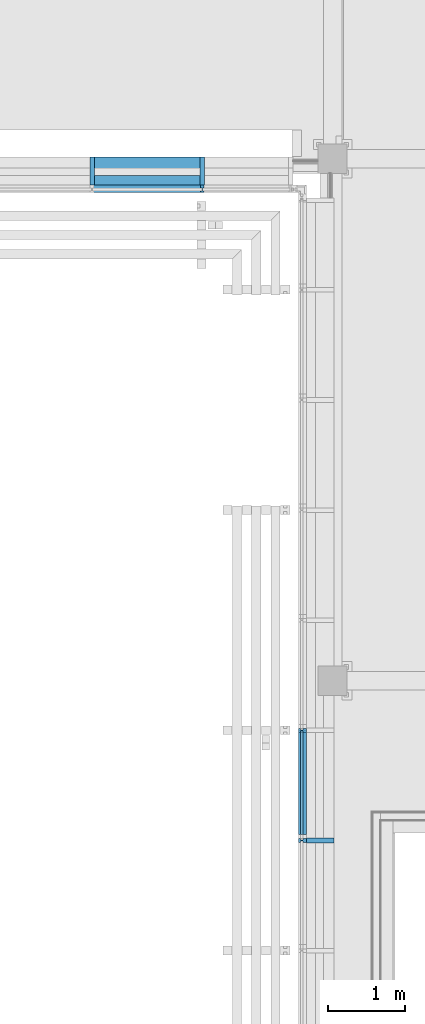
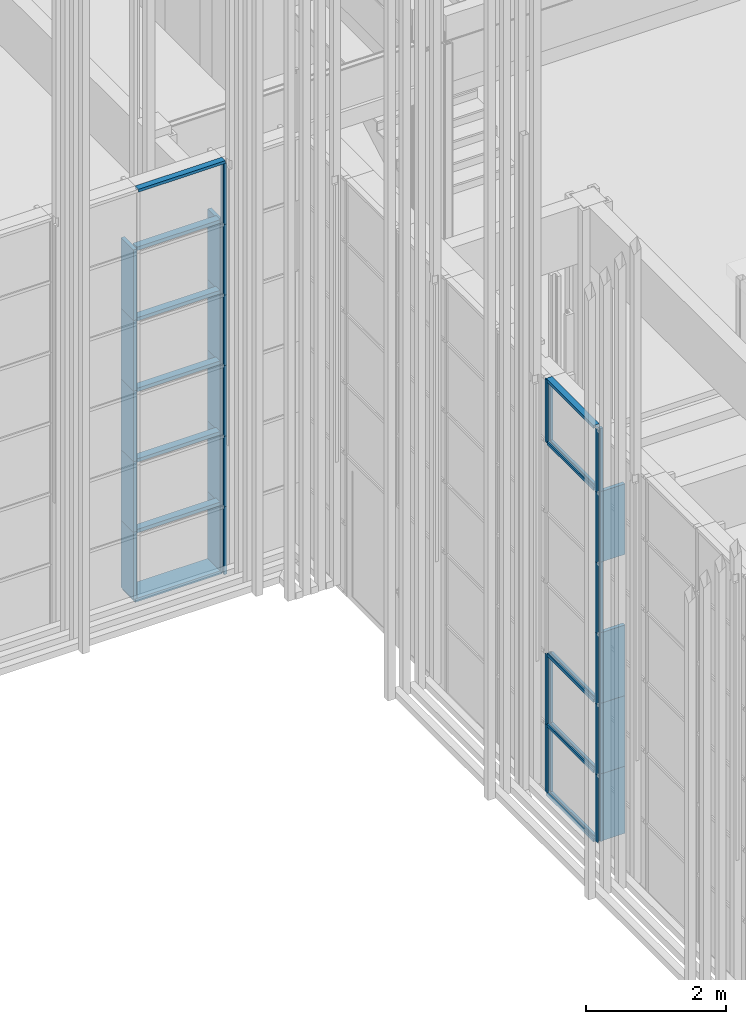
# One storey, part 18 of 260: 41 members, 3 elements without a shape of their own.
"""IFC2X3 building model written with IfcOpenShell, lengths in millimetres."""

from ifc_helpers import new_model, entity, si_unit, converted_unit, derived_unit, money_unit, direction, frame, origin_with_axes, place, context, subcontext, project, spatial, faceted_brep, source, transform, mapped, material, type_object, element, aggregate, save


model = new_model("IFC2X3")

# Units and contexts
model_context = context("Model", 3, precision=0.01, world=origin_with_axes(), true_north=direction((0.0, 1.0)))
body_context = subcontext(model_context, "Body", "Model", "MODEL_VIEW")
ifc_project = project(units=[si_unit("LENGTHUNIT", "METRE", prefix="MILLI"), si_unit("AREAUNIT", "SQUARE_METRE"), si_unit("VOLUMEUNIT", "CUBIC_METRE"), converted_unit("PLANEANGLEUNIT", "DEGREE", entity("IfcPlaneAngleMeasure", 0.0174532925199), si_unit("PLANEANGLEUNIT", "RADIAN"), dimensions=[0, 0, 0, 0, 0, 0, 0]), money_unit("EUR"), converted_unit("TIMEUNIT", "Year", entity("IfcTimeMeasure", 31556926.0), si_unit("TIMEUNIT", "SECOND"), dimensions=[0, 0, 1, 0, 0, 0, 0]), si_unit("MASSUNIT", "GRAM", prefix="KILO"), si_unit("THERMODYNAMICTEMPERATUREUNIT", "DEGREE_CELSIUS"), si_unit("LUMINOUSINTENSITYUNIT", "LUMEN"), si_unit("ENERGYUNIT", "JOULE", prefix="MEGA"), derived_unit("THERMALCONDUCTANCEUNIT", [(si_unit("POWERUNIT", "WATT"), 1), (si_unit("LENGTHUNIT", "METRE"), -1), (si_unit("THERMODYNAMICTEMPERATUREUNIT", "KELVIN"), -1)]), derived_unit("SPECIFICHEATCAPACITYUNIT", [(si_unit("ENERGYUNIT", "JOULE"), 1), (si_unit("MASSUNIT", "GRAM", prefix="KILO"), -1), (si_unit("THERMODYNAMICTEMPERATUREUNIT", "KELVIN"), -1)]), derived_unit("MASSDENSITYUNIT", [(si_unit("MASSUNIT", "GRAM", prefix="KILO"), 1), (si_unit("VOLUMEUNIT", "CUBIC_METRE"), -1)])], contexts=[model_context])

# Site, building, storey
site_placement = place(None, origin_with_axes())
site = spatial("IfcSite", under=ifc_project, at=site_placement, Name="Kolde pst 67a", CompositionType="ELEMENT")
building_placement = place(site_placement, origin_with_axes())
building = spatial("IfcBuilding", under=site, at=building_placement, Name="Riigigümnaasium", CompositionType="ELEMENT")
storey_placement = place(building_placement, origin_with_axes())
storey = spatial("IfcBuildingStorey", under=building, at=storey_placement, Name="1. korrus", CompositionType="ELEMENT", Elevation=0.0)

# Curtain wall, members
curtain_wall_type = type_object("IfcCurtainWallType", Name="Curtain Wall Type", PredefinedType="NOTDEFINED")
curtain_wall_1_placement = place(storey_placement, frame((47829.9854655, 8727.77020058, -0.000749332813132), z_axis=(0.0, 0.0, 1.0), x_axis=(1.0, 0.0, 0.0)))
curtain_wall_1 = element("IfcCurtainWall", 1, at=curtain_wall_1_placement, inside=storey, type_object=curtain_wall_type, Name="KLAASFASSAAD")
ifc_material_1 = material(Name="_METALL - alumiinium")
member_type_1 = type_object("IfcMemberType", Name="Mullion Frame 50 x 100", PredefinedType="MEMBER")
shared_shape_1 = source(origin_with_axes(), body_context, "Body", "Brep", [
    faceted_brep([(5.0, -16.5, 1230.00046362), (5.0, 16.5, 1230.00046362), (25.0, 16.5, 1230.00046362), (25.0, 40.0, 1230.00046362), (-25.0, 40.0, 1230.00046362), (-25.0, 16.5, 1230.00046362), (-5.0, 16.5, 1230.00046362), (-5.0, -16.5, 1230.00046362), (-25.0, -16.5, 1230.00046362), (-25.0, -60.0, 1230.00046362), (25.0, -60.0, 1230.00046362), (25.0, -16.5, 1230.00046362), (5.0, -16.5, 50.0), (5.0, 16.5, 50.0), (25.0, 16.5, 50.0), (25.0, 40.0, 50.0), (-25.0, 40.0, 50.0), (-25.0, 16.5, 50.0), (-5.0, 16.5, 50.0), (-5.0, -16.5, 50.0), (-25.0, -16.5, 50.0), (-25.0, -60.0, 50.0), (25.0, -60.0, 50.0), (25.0, -16.5, 50.0)], [[[0, 1, 2, 3, 4, 5, 6, 7, 8, 9, 10, 11]], [[0, 12, 13, 1]], [[1, 13, 14, 2]], [[14, 15, 3, 2]], [[4, 3, 15, 16]], [[17, 5, 4, 16]], [[5, 17, 18, 6]], [[7, 6, 18, 19]], [[8, 7, 19, 20]], [[8, 20, 21, 9]], [[10, 9, 21, 22]], [[11, 10, 22, 23]], [[11, 23, 12, 0]], [[13, 12, 23, 22, 21, 20, 19, 18, 17, 16, 15, 14]]]),
])
member_1_placement = place(curtain_wall_1_placement, frame((-1292.41506424, 15102.2446923, 0.000285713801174), z_axis=(0.0, 0.0, 1.0), x_axis=(0.999999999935, -1.14108152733e-05, 0.0)))
member_1 = element("IfcMember", 2, at=member_1_placement, type_object=member_type_1, material=ifc_material_1, Name="RF RAAM VERT-053", ObjectType="MEMBER", context=body_context, shape_type="MappedRepresentation", body=[
    mapped(shared_shape_1, transform((0.0, 0.0, 0.0), x_axis=(-1.0, 0.0, 0.0), y_axis=(0.0, -1.0, 0.0), z_axis=(0.0, 0.0, 1.0))),
])
member_2_placement = place(curtain_wall_1_placement, frame((-6.06114980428e-06, 6648.7910799, 0.0), z_axis=(0.0, 7.65931386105e-09, 1.0), x_axis=(9.1161639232e-10, -1.0, 7.65931386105e-09)))
member_2 = element("IfcMember", 3, at=member_2_placement, type_object=member_type_1, material=ifc_material_1, Name="RF RAAM VERT-969", ObjectType="MEMBER", context=body_context, shape_type="MappedRepresentation", body=[
    mapped(shared_shape_1, transform((0.0, 0.0, 0.0), x_axis=(-1.0, 0.0, 7.65931386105e-09), y_axis=(0.0, -1.0, 0.0), z_axis=(7.65931386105e-09, 0.0, 1.0))),
])
member_3_placement = place(curtain_wall_1_placement, frame((-7.36476835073e-06, 8078.79947583, 0.0), z_axis=(0.0, 0.0, 1.0), x_axis=(9.1161639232e-10, -1.0, 0.0)))
member_3 = element("IfcMember", 4, at=member_3_placement, type_object=member_type_1, material=ifc_material_1, Name="RF RAAM VERT-525", ObjectType="MEMBER", context=body_context, shape_type="MappedRepresentation", body=[
    mapped(shared_shape_1, transform((0.0, 0.0, 0.0), x_axis=(-1.0, 0.0, 0.0), y_axis=(0.0, -1.0, 0.0), z_axis=(0.0, 0.0, 1.0))),
])
shared_shape_2 = source(origin_with_axes(), body_context, "Body", "Brep", [
    faceted_brep([(5.0, -16.5, 1230.0), (5.0, 16.5, 1230.0), (25.0, 16.5, 1230.0), (25.0, 40.0, 1230.0), (-25.0, 40.0, 1230.0), (-25.0, 16.5, 1230.0), (-5.0, 16.5, 1230.0), (-5.0, -16.5, 1230.0), (-25.0, -16.5, 1230.0), (-25.0, -60.0, 1230.0), (25.0, -60.0, 1230.0), (25.0, -16.5, 1230.0), (5.0, -16.5, 0.0), (5.0, 16.5, 0.0), (25.0, 16.5, 0.0), (25.0, 40.0, 0.0), (-25.0, 40.0, 0.0), (-25.0, 16.5, 0.0), (-5.0, 16.5, 0.0), (-5.0, -16.5, 0.0), (-25.0, -16.5, 0.0), (-25.0, -60.0, 0.0), (25.0, -60.0, 0.0), (25.0, -16.5, 0.0)], [[[0, 1, 2, 3, 4, 5, 6, 7, 8, 9, 10, 11]], [[0, 12, 13, 1]], [[1, 13, 14, 2]], [[14, 15, 3, 2]], [[3, 15, 16, 4]], [[17, 5, 4, 16]], [[5, 17, 18, 6]], [[7, 6, 18, 19]], [[8, 7, 19, 20]], [[8, 20, 21, 9]], [[9, 21, 22, 10]], [[11, 10, 22, 23]], [[11, 23, 12, 0]], [[13, 12, 23, 22, 21, 20, 19, 18, 17, 16, 15, 14]]]),
])
member_4_placement = place(curtain_wall_1_placement, frame((-1292.41506424, 15102.2446923, 1230.00074933), z_axis=(0.0, 0.0, 1.0), x_axis=(0.999999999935, -1.14108152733e-05, 0.0)))
member_4 = element("IfcMember", 5, at=member_4_placement, type_object=member_type_1, material=ifc_material_1, Name="RF RAAM VERT-054", ObjectType="MEMBER", context=body_context, shape_type="MappedRepresentation", body=[
    mapped(shared_shape_2, transform((0.0, 0.0, 0.0), x_axis=(-1.0, 0.0, 0.0), y_axis=(0.0, -1.0, 0.0), z_axis=(0.0, 0.0, 1.0))),
])
member_5_placement = place(curtain_wall_1_placement, frame((-1292.41506424, 15102.2446923, 2460.00074933), z_axis=(0.0, 0.0, 1.0), x_axis=(0.999999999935, -1.14108152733e-05, 0.0)))
member_5 = element("IfcMember", 6, at=member_5_placement, type_object=member_type_1, material=ifc_material_1, Name="RF RAAM VERT-055", ObjectType="MEMBER", context=body_context, shape_type="MappedRepresentation", body=[
    mapped(shared_shape_2, transform((0.0, 0.0, 0.0), x_axis=(-1.0, 0.0, 0.0), y_axis=(0.0, -1.0, 0.0), z_axis=(0.0, 0.0, 1.0))),
])
member_6_placement = place(curtain_wall_1_placement, frame((-1292.41506424, 15102.2446923, 3690.00074933), z_axis=(0.0, 0.0, 1.0), x_axis=(0.999999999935, -1.14108152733e-05, 0.0)))
member_6 = element("IfcMember", 7, at=member_6_placement, type_object=member_type_1, material=ifc_material_1, Name="RF RAAM VERT-056", ObjectType="MEMBER", context=body_context, shape_type="MappedRepresentation", body=[
    mapped(shared_shape_2, transform((0.0, 0.0, 0.0), x_axis=(-1.0, 0.0, 0.0), y_axis=(0.0, -1.0, 0.0), z_axis=(0.0, 0.0, 1.0))),
])
member_7_placement = place(curtain_wall_1_placement, frame((-1292.41506424, 15102.2446923, 4920.00074933), z_axis=(0.0, 0.0, 1.0), x_axis=(0.999999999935, -1.14108152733e-05, 0.0)))
member_7 = element("IfcMember", 8, at=member_7_placement, type_object=member_type_1, material=ifc_material_1, Name="RF RAAM VERT-057", ObjectType="MEMBER", context=body_context, shape_type="MappedRepresentation", body=[
    mapped(shared_shape_2, transform((0.0, 0.0, 0.0), x_axis=(-1.0, 0.0, 0.0), y_axis=(0.0, -1.0, 0.0), z_axis=(0.0, 0.0, 1.0))),
])
member_8_placement = place(curtain_wall_1_placement, frame((-6.06114980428e-06, 6648.79108932, 4920.00074933), z_axis=(0.0, -1.73241309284e-08, 1.0), x_axis=(9.1161639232e-10, -1.0, -1.73241309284e-08)))
member_8 = element("IfcMember", 9, at=member_8_placement, type_object=member_type_1, material=ifc_material_1, Name="RF RAAM VERT-872", ObjectType="MEMBER", context=body_context, shape_type="MappedRepresentation", body=[
    mapped(shared_shape_2, transform((0.0, 0.0, 0.0), x_axis=(-1.0, 0.0, -1.73241309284e-08), y_axis=(0.0, -1.0, 0.0), z_axis=(-1.73241309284e-08, 0.0, 1.0))),
])
member_9_placement = place(curtain_wall_1_placement, frame((-6.06114980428e-06, 6648.79108932, 1230.00074933), z_axis=(0.0, 0.0, 1.0), x_axis=(9.1161639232e-10, -1.0, 0.0)))
member_9 = element("IfcMember", 10, at=member_9_placement, type_object=member_type_1, material=ifc_material_1, Name="RF RAAM VERT-965", ObjectType="MEMBER", context=body_context, shape_type="MappedRepresentation", body=[
    mapped(shared_shape_2, transform((0.0, 0.0, 0.0), x_axis=(-1.0, 0.0, 0.0), y_axis=(0.0, -1.0, 0.0), z_axis=(0.0, 0.0, 1.0))),
])
member_10_placement = place(curtain_wall_1_placement, frame((-6.06114980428e-06, 6648.79108932, 2460.00074933), z_axis=(0.0, 0.0, 1.0), x_axis=(9.1161639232e-10, -1.0, 0.0)))
member_10 = element("IfcMember", 11, at=member_10_placement, type_object=member_type_1, material=ifc_material_1, Name="RF RAAM VERT-966", ObjectType="MEMBER", context=body_context, shape_type="MappedRepresentation", body=[
    mapped(shared_shape_2, transform((0.0, 0.0, 0.0), x_axis=(-1.0, 0.0, 0.0), y_axis=(0.0, -1.0, 0.0), z_axis=(0.0, 0.0, 1.0))),
])
member_11_placement = place(curtain_wall_1_placement, frame((-6.06114980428e-06, 6648.79108932, 3690.00074933), z_axis=(0.0, 0.0, 1.0), x_axis=(9.1161639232e-10, -1.0, 0.0)))
member_11 = element("IfcMember", 12, at=member_11_placement, type_object=member_type_1, material=ifc_material_1, Name="RF RAAM VERT-967", ObjectType="MEMBER", context=body_context, shape_type="MappedRepresentation", body=[
    mapped(shared_shape_2, transform((0.0, 0.0, 0.0), x_axis=(-1.0, 0.0, 0.0), y_axis=(0.0, -1.0, 0.0), z_axis=(0.0, 0.0, 1.0))),
])
member_12_placement = place(curtain_wall_1_placement, frame((-7.36476835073e-06, 8078.79947583, 1230.00074933), z_axis=(0.0, -9.91255641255e-09, 1.0), x_axis=(9.1161639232e-10, -1.0, -9.91255641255e-09)))
member_12 = element("IfcMember", 13, at=member_12_placement, type_object=member_type_1, material=ifc_material_1, Name="RF RAAM VERT-526", ObjectType="MEMBER", context=body_context, shape_type="MappedRepresentation", body=[
    mapped(shared_shape_2, transform((0.0, 0.0, 0.0), x_axis=(-1.0, 0.0, -9.91255641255e-09), y_axis=(0.0, -1.0, 0.0), z_axis=(-9.91255641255e-09, 0.0, 1.0))),
])
member_type_2 = type_object("IfcMemberType", Name="Boundary Frame 50 x 100", PredefinedType="MEMBER")
shared_shape_3 = source(origin_with_axes(), body_context, "Body", "Brep", [
    faceted_brep([(-30.0, -16.5, 1430.0), (-50.0, -16.5, 1430.0), (-50.0, -60.0, 1430.0), (0.0, -60.0, 1430.0), (0.0, 40.0, 1430.0), (-50.0, 40.0, 1430.0), (-50.0, 16.5, 1430.0), (-30.0, 16.5, 1430.0), (-30.0, -16.5, 0.0), (-50.0, -16.5, 0.0), (-50.0, -60.0, 0.0), (0.0, -60.0, 0.0), (0.0, 40.0, 0.0), (-50.0, 40.0, 0.0), (-50.0, 16.5, 0.0), (-30.0, 16.5, 0.0)], [[[0, 1, 2, 3, 4, 5, 6, 7]], [[0, 8, 9, 1]], [[9, 10, 2, 1]], [[10, 11, 3, 2]], [[11, 12, 4, 3]], [[12, 13, 5, 4]], [[6, 5, 13, 14]], [[14, 15, 7, 6]], [[7, 15, 8, 0]], [[8, 15, 14, 13, 12, 11, 10, 9]]]),
])
member_13_placement = place(curtain_wall_1_placement, frame((-2722.41506415, 15102.2610098, 7259.99992735), z_axis=(0.999999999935, -1.14108152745e-05, 0.0), x_axis=(0.0, 0.0, -1.0)))
member_13 = element("IfcMember", 14, at=member_13_placement, type_object=member_type_2, material=ifc_material_1, Name="RF RAAM SERV-627", ObjectType="MEMBER", context=body_context, shape_type="MappedRepresentation", body=[
    mapped(shared_shape_3, transform((0.0, 0.0, 0.0), x_axis=(-1.0, 0.0, 0.0), y_axis=(0.0, -1.0, 0.0), z_axis=(0.0, 0.0, 1.0))),
])
member_type_3 = type_object("IfcMemberType", Name="Transom Frame 50 x 100", PredefinedType="MEMBER")
shared_shape_4 = source(origin_with_axes(), body_context, "Body", "Brep", [
    faceted_brep([(5.0, -16.5, 1327.76037897), (5.0, 16.5, 1327.76037897), (25.0, 16.5, 1327.76037897), (25.0, 40.0, 1327.76037897), (-25.0, 40.0, 1327.76037897), (-25.0, 16.5, 1327.76037897), (-5.0, 16.5, 1327.76037897), (-5.0, -16.5, 1327.76037897), (-25.0, -16.5, 1327.76037897), (-25.0, -60.0, 1327.76037897), (25.0, -60.0, 1327.76037897), (25.0, -16.5, 1327.76037897), (5.0, -16.5, 0.0), (5.0, 16.5, 0.0), (25.0, 16.5, 0.0), (25.0, 40.0, 0.0), (-25.0, 40.0, 0.0), (-25.0, 16.5, 0.0), (-5.0, 16.5, 0.0), (-5.0, -16.5, 0.0), (-25.0, -16.5, 0.0), (-25.0, -60.0, 0.0), (25.0, -60.0, 0.0), (25.0, -16.5, 0.0)], [[[0, 1, 2, 3, 4, 5, 6, 7, 8, 9, 10, 11]], [[0, 12, 13, 1]], [[1, 13, 14, 2]], [[14, 15, 3, 2]], [[3, 15, 16, 4]], [[17, 5, 4, 16]], [[5, 17, 18, 6]], [[7, 6, 18, 19]], [[8, 7, 19, 20]], [[8, 20, 21, 9]], [[9, 21, 22, 10]], [[11, 10, 22, 23]], [[11, 23, 12, 0]], [[13, 12, 23, 22, 21, 20, 19, 18, 17, 16, 15, 14]]]),
])
member_14_placement = place(curtain_wall_1_placement, frame((-6.13157169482e-06, 6726.03908467, 6150.00074933), z_axis=(-9.11614994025e-10, 1.0, 0.0), x_axis=(0.0, 0.0, 1.0)))
member_14 = element("IfcMember", 15, at=member_14_placement, type_object=member_type_3, material=ifc_material_1, Name="RF RAAM HOR-393", ObjectType="MEMBER", context=body_context, shape_type="MappedRepresentation", body=[
    mapped(shared_shape_4, transform((0.0, 0.0, 0.0), x_axis=(-1.0, 0.0, 0.0), y_axis=(0.0, -1.0, 9.1161487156e-10), z_axis=(0.0, 9.1161487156e-10, 1.0))),
])
member_15_placement = place(curtain_wall_1_placement, frame((-6.13157169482e-06, 6726.03908467, 1230.00074933), z_axis=(-9.11614994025e-10, 1.0, 0.0), x_axis=(0.0, 0.0, 1.0)))
member_15 = element("IfcMember", 16, at=member_15_placement, type_object=member_type_3, material=ifc_material_1, Name="RF RAAM HOR-394", ObjectType="MEMBER", context=body_context, shape_type="MappedRepresentation", body=[
    mapped(shared_shape_4, transform((0.0, 0.0, 0.0), x_axis=(-1.0, 0.0, 0.0), y_axis=(0.0, -1.0, 9.1161487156e-10), z_axis=(0.0, 9.1161487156e-10, 1.0))),
])
member_16_placement = place(curtain_wall_1_placement, frame((-6.13157169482e-06, 6726.03908467, 2460.00074933), z_axis=(-9.11615002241e-10, 1.0, 0.0), x_axis=(0.0, 0.0, 1.0)))
member_16 = element("IfcMember", 17, at=member_16_placement, type_object=member_type_3, material=ifc_material_1, Name="RF RAAM HOR-395", ObjectType="MEMBER", context=body_context, shape_type="MappedRepresentation", body=[
    mapped(shared_shape_4, transform((0.0, 0.0, 0.0), x_axis=(-1.0, 0.0, 0.0), y_axis=(0.0, -1.0, 9.11614879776e-10), z_axis=(0.0, 9.11614879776e-10, 1.0))),
])
shared_shape_5 = source(origin_with_axes(), body_context, "Body", "Brep", [
    faceted_brep([(5.0, -16.5, 1099.99900713), (5.0, 16.5, 1099.99900713), (25.0, 16.5, 1099.99900713), (25.0, 40.0, 1099.99900713), (-25.0, 40.0, 1099.99900713), (-25.0, 16.5, 1099.99900713), (-5.0, 16.5, 1099.99900713), (-5.0, -16.5, 1099.99900713), (-25.0, -16.5, 1099.99900713), (-25.0, -60.0, 1099.99900713), (25.0, -60.0, 1099.99900713), (25.0, -16.5, 1099.99900713), (5.0, -16.5, -4.55870452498e-07), (5.0, 16.5, -4.55870452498e-07), (25.0, 16.5, -4.55870452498e-07), (25.0, 40.0, -4.55870452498e-07), (-25.0, 40.0, -4.55870452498e-07), (-25.0, 16.5, -4.55870452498e-07), (-5.0, 16.5, -4.55870452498e-07), (-5.0, -16.5, -4.55870452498e-07), (-25.0, -16.5, -4.55870452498e-07), (-25.0, -60.0, -4.55870452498e-07), (25.0, -60.0, -4.55870452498e-07), (25.0, -16.5, -4.55870452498e-07)], [[[0, 1, 2, 3, 4, 5, 6, 7, 8, 9, 10, 11]], [[0, 12, 13, 1]], [[1, 13, 14, 2]], [[14, 15, 3, 2]], [[3, 15, 16, 4]], [[17, 5, 4, 16]], [[5, 17, 18, 6]], [[7, 6, 18, 19]], [[8, 7, 19, 20]], [[8, 20, 21, 9]], [[9, 21, 22, 10]], [[11, 10, 22, 23]], [[11, 23, 12, 0]], [[13, 12, 23, 22, 21, 20, 19, 18, 17, 16, 15, 14]]]),
])
member_17_placement = place(curtain_wall_1_placement, frame((-6.06114980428e-06, 6648.79106801, 6150.00074933), z_axis=(0.0, 1.06140392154e-08, 1.0), x_axis=(9.1161639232e-10, -1.0, 1.06140392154e-08)))
member_17 = element("IfcMember", 18, at=member_17_placement, type_object=member_type_1, material=ifc_material_1, Name="RF RAAM VERT-048", ObjectType="MEMBER", context=body_context, shape_type="MappedRepresentation", body=[
    mapped(shared_shape_5, transform((0.0, 0.0, 0.0), x_axis=(-1.0, 0.0, 1.06140392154e-08), y_axis=(0.0, -1.0, 0.0), z_axis=(1.06140392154e-08, 0.0, 1.0))),
])
member_18_placement = place(curtain_wall_1_placement, frame((-7.36476835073e-06, 8078.79947583, 6150.00074933), z_axis=(0.0, 0.0, 1.0), x_axis=(9.1161639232e-10, -1.0, 0.0)))
member_18 = element("IfcMember", 19, at=member_18_placement, type_object=member_type_1, material=ifc_material_1, Name="RF RAAM VERT-524", ObjectType="MEMBER", context=body_context, shape_type="MappedRepresentation", body=[
    mapped(shared_shape_5, transform((0.0, 0.0, 0.0), x_axis=(-1.0, 0.0, 0.0), y_axis=(0.0, -1.0, 0.0), z_axis=(0.0, 0.0, 1.0))),
])
shared_shape_6 = source(origin_with_axes(), body_context, "Body", "Brep", [
    faceted_brep([(5.0, -16.5, 1059.99917802), (5.0, 16.5, 1059.99917802), (25.0, 16.5, 1059.99917802), (25.0, 40.0, 1059.99917802), (-25.0, 40.0, 1059.99917802), (-25.0, 16.5, 1059.99917802), (-5.0, 16.5, 1059.99917802), (-5.0, -16.5, 1059.99917802), (-25.0, -16.5, 1059.99917802), (-25.0, -60.0, 1059.99917802), (25.0, -60.0, 1059.99917802), (25.0, -16.5, 1059.99917802), (5.0, -16.5, 0.0), (5.0, 16.5, 0.0), (25.0, 16.5, 0.0), (25.0, 40.0, 0.0), (-25.0, 40.0, 0.0), (-25.0, 16.5, 0.0), (-5.0, 16.5, 0.0), (-5.0, -16.5, 0.0), (-25.0, -16.5, 0.0), (-25.0, -60.0, 0.0), (25.0, -60.0, 0.0), (25.0, -16.5, 0.0)], [[[0, 1, 2, 3, 4, 5, 6, 7, 8, 9, 10, 11]], [[0, 12, 13, 1]], [[1, 13, 14, 2]], [[14, 15, 3, 2]], [[3, 15, 16, 4]], [[17, 5, 4, 16]], [[5, 17, 18, 6]], [[7, 6, 18, 19]], [[8, 7, 19, 20]], [[8, 20, 21, 9]], [[9, 21, 22, 10]], [[11, 10, 22, 23]], [[11, 23, 12, 0]], [[13, 12, 23, 22, 21, 20, 19, 18, 17, 16, 15, 14]]]),
])
member_19_placement = place(curtain_wall_1_placement, frame((-1292.41506424, 15102.2446923, 6150.00074933), z_axis=(0.0, 0.0, 1.0), x_axis=(0.999999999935, -1.14108152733e-05, 0.0)))
member_19 = element("IfcMember", 20, at=member_19_placement, type_object=member_type_1, material=ifc_material_1, Name="RF RAAM VERT-074", ObjectType="MEMBER", context=body_context, shape_type="MappedRepresentation", body=[
    mapped(shared_shape_6, transform((0.0, 0.0, 0.0), x_axis=(-1.0, 0.0, 0.0), y_axis=(0.0, -1.0, 0.0), z_axis=(0.0, 0.0, 1.0))),
])
shared_shape_7 = source(origin_with_axes(), body_context, "Body", "Brep", [
    faceted_brep([(-30.0, -16.5, 1352.76039116), (-50.0, -16.5, 1352.76039116), (-50.0, -60.0, 1352.76039116), (0.0, -60.0, 1352.76039116), (0.0, 40.0, 1352.76039116), (-50.0, 40.0, 1352.76039116), (-50.0, 16.5, 1352.76039116), (-30.0, 16.5, 1352.76039116), (-30.0, -16.5, 0.0), (-50.0, -16.5, 0.0), (-50.0, -60.0, 0.0), (0.0, -60.0, 0.0), (0.0, 40.0, 0.0), (-50.0, 40.0, 0.0), (-50.0, 16.5, 0.0), (-30.0, 16.5, 0.0)], [[[0, 1, 2, 3, 4, 5, 6, 7]], [[0, 8, 9, 1]], [[9, 10, 2, 1]], [[10, 11, 3, 2]], [[11, 12, 4, 3]], [[12, 13, 5, 4]], [[6, 5, 13, 14]], [[14, 15, 7, 6]], [[7, 15, 8, 0]], [[8, 15, 14, 13, 12, 11, 10, 9]]]),
])
member_20_placement = place(curtain_wall_1_placement, frame((-7.36476835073e-06, 8078.79947583, 7259.99994321), z_axis=(9.11614994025e-10, -1.0, 0.0), x_axis=(0.0, 0.0, -1.0)))
member_20 = element("IfcMember", 21, at=member_20_placement, type_object=member_type_2, material=ifc_material_1, Name="RF RAAM SERV-576", ObjectType="MEMBER", context=body_context, shape_type="MappedRepresentation", body=[
    mapped(shared_shape_7, transform((0.0, 0.0, 0.0), x_axis=(-1.0, 0.0, 0.0), y_axis=(0.0, -1.0, -9.11614994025e-10), z_axis=(0.0, -9.11614994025e-10, 1.0))),
])
member_21_placement = place(curtain_wall_1_placement, frame((-6.13157169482e-06, 6726.03908467, 0.0), z_axis=(-9.11614994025e-10, 1.0, 0.0), x_axis=(0.0, 0.0, 1.0)))
member_21 = element("IfcMember", 22, at=member_21_placement, type_object=member_type_2, material=ifc_material_1, Name="RF RAAM SERV-559", ObjectType="MEMBER", context=body_context, shape_type="MappedRepresentation", body=[
    mapped(shared_shape_7, transform((0.0, 0.0, 0.0), x_axis=(-1.0, 0.0, 0.0), y_axis=(0.0, -1.0, 9.1161487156e-10), z_axis=(0.0, 9.1161487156e-10, 1.0))),
])
aggregate(curtain_wall_1, [member_1, member_4, member_5, member_6, member_7, member_8, member_9, member_10, member_11, member_2, member_17, member_19, member_20, member_13, member_18, member_14, member_3, member_21, member_15, member_12, member_16])

curtain_wall_2_placement = place(storey_placement, frame((23890.0026791, 27220.1832522, -0.000253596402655), z_axis=(0.0, 0.0, 1.0), x_axis=(1.0, 0.0, 0.0)))
curtain_wall_2 = element("IfcCurtainWall", 23, at=curtain_wall_2_placement, inside=storey, type_object=curtain_wall_type, Name="Klaasfassaadi puitkarkass")
ifc_material_2 = material(Name="_KANDETARIND - liimpuit vastavalt EK osale")
member_type_4 = type_object("IfcMemberType", Name="Transom Frame 60 x 120", PredefinedType="MEMBER")
shared_shape_8 = source(origin_with_axes(), body_context, "Body", "Brep", [
    faceted_brep([(-30.0, 0.0, 30.0), (-30.0, -120.0, 30.0), (-30.0, -120.0, 1400.0), (-30.0, 0.0, 1400.0), (30.0, 0.0, 30.0), (30.0, -120.0, 30.0), (30.0, -120.0, 1400.0), (30.0, 0.0, 1400.0)], [[[0, 1, 2, 3]], [[1, 0, 4, 5]], [[1, 5, 6, 2]], [[2, 6, 7, 3]], [[4, 0, 3, 7]], [[5, 4, 7, 6]]]),
])
member_22_placement = place(curtain_wall_2_placement, frame((22649.3770557, -3330.16844519, 1230.0002536), z_axis=(-1.0, 0.0, 0.0), x_axis=(0.0, 0.0, 1.0)))
member_22 = element("IfcMember", 24, at=member_22_placement, type_object=member_type_4, material=ifc_material_2, Name="RF RAAM HOR-648", ObjectType="MEMBER", context=body_context, shape_type="MappedRepresentation", body=[
    mapped(shared_shape_8, transform((0.0, 0.0, 0.0), x_axis=(-1.0, 0.0, 0.0), y_axis=(0.0, -1.0, 0.0), z_axis=(0.0, 0.0, 1.0))),
])
member_23_placement = place(curtain_wall_2_placement, frame((22649.3770557, -3330.16844519, 2460.0002536), z_axis=(-1.0, 0.0, 0.0), x_axis=(0.0, 0.0, 1.0)))
member_23 = element("IfcMember", 25, at=member_23_placement, type_object=member_type_4, material=ifc_material_2, Name="RF RAAM HOR-648", ObjectType="MEMBER", context=body_context, shape_type="MappedRepresentation", body=[
    mapped(shared_shape_8, transform((0.0, 0.0, 0.0), x_axis=(-1.0, 0.0, 0.0), y_axis=(0.0, -1.0, 0.0), z_axis=(0.0, 0.0, 1.0))),
])
member_24_placement = place(curtain_wall_2_placement, frame((22649.3770557, -3330.16844519, 3690.0002536), z_axis=(-1.0, 0.0, 0.0), x_axis=(0.0, 0.0, 1.0)))
member_24 = element("IfcMember", 26, at=member_24_placement, type_object=member_type_4, material=ifc_material_2, Name="RF RAAM HOR-648", ObjectType="MEMBER", context=body_context, shape_type="MappedRepresentation", body=[
    mapped(shared_shape_8, transform((0.0, 0.0, 0.0), x_axis=(-1.0, 0.0, 0.0), y_axis=(0.0, -1.0, 0.0), z_axis=(0.0, 0.0, 1.0))),
])
member_25_placement = place(curtain_wall_2_placement, frame((22649.3770557, -3330.16844519, 4920.0002536), z_axis=(-1.0, 0.0, 0.0), x_axis=(0.0, 0.0, 1.0)))
member_25 = element("IfcMember", 27, at=member_25_placement, type_object=member_type_4, material=ifc_material_2, Name="RF RAAM HOR-648", ObjectType="MEMBER", context=body_context, shape_type="MappedRepresentation", body=[
    mapped(shared_shape_8, transform((0.0, 0.0, 0.0), x_axis=(-1.0, 0.0, 0.0), y_axis=(0.0, -1.0, 0.0), z_axis=(0.0, 0.0, 1.0))),
])
member_26_placement = place(curtain_wall_2_placement, frame((22649.3770557, -3330.16844519, 6150.0002536), z_axis=(-1.0, 0.0, 0.0), x_axis=(0.0, 0.0, 1.0)))
member_26 = element("IfcMember", 28, at=member_26_placement, type_object=member_type_4, material=ifc_material_2, Name="RF RAAM HOR-648", ObjectType="MEMBER", context=body_context, shape_type="MappedRepresentation", body=[
    mapped(shared_shape_8, transform((0.0, 0.0, 0.0), x_axis=(-1.0, 0.0, 0.0), y_axis=(0.0, -1.0, 0.0), z_axis=(0.0, 0.0, 1.0))),
])
member_type_5 = type_object("IfcMemberType", Name="Mullion Frame 60 x 360", PredefinedType="MEMBER")
shared_shape_9 = source(origin_with_axes(), body_context, "Body", "Brep", [
    faceted_brep([(-30.0, 0.0, 60.0), (-30.0, -360.0, 60.0), (-30.0, -360.0, 1230.0002536), (-30.0, 0.0, 1230.0002536), (30.0, 0.0, 60.0), (30.0, -360.0, 60.0), (30.0, -360.0, 1230.0002536), (30.0, 0.0, 1230.0002536)], [[[0, 1, 2, 3]], [[1, 0, 4, 5]], [[1, 5, 6, 2]], [[2, 6, 7, 3]], [[4, 0, 3, 7]], [[5, 4, 7, 6]]]),
])
member_27_placement = place(curtain_wall_2_placement, frame((22649.3770557, -3330.16844519, 0.000124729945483), z_axis=(0.0, 0.0, 1.0), x_axis=(1.0, 0.0, 0.0)))
member_27 = element("IfcMember", 29, at=member_27_placement, type_object=member_type_5, material=ifc_material_2, Name="RF RAAM VERT-837", ObjectType="MEMBER", context=body_context, shape_type="MappedRepresentation", body=[
    mapped(shared_shape_9, transform((0.0, 0.0, 0.0), x_axis=(-1.0, 0.0, 0.0), y_axis=(0.0, -1.0, 0.0), z_axis=(0.0, 0.0, 1.0))),
])
member_28_placement = place(curtain_wall_2_placement, frame((21219.3770557, -3330.16844532, 0.000124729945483), z_axis=(0.0, 0.0, 1.0), x_axis=(1.0, 0.0, 0.0)))
member_28 = element("IfcMember", 30, at=member_28_placement, type_object=member_type_5, material=ifc_material_2, Name="RF RAAM VERT-837", ObjectType="MEMBER", context=body_context, shape_type="MappedRepresentation", body=[
    mapped(shared_shape_9, transform((0.0, 0.0, 0.0), x_axis=(-1.0, 0.0, 0.0), y_axis=(0.0, -1.0, 0.0), z_axis=(0.0, 0.0, 1.0))),
])

# Curtain wall, member
curtain_wall_3_placement = place(storey_placement, frame((47889.9854796, 7778.28071079, -0.000681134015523), z_axis=(0.0, 0.0, 1.0), x_axis=(1.0, 0.0, 0.0)))
curtain_wall_3 = element("IfcCurtainWall", 31, at=curtain_wall_3_placement, inside=storey, type_object=curtain_wall_type, Name="Klaasfassaadi puitkarkass")
member_29_placement = place(curtain_wall_3_placement, frame((-8.165983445e-06, 7598.28063511, 0.0), z_axis=(0.0, 0.0, 1.0), x_axis=(1.07471576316e-09, -1.0, 0.0)))
member_29 = element("IfcMember", 32, at=member_29_placement, type_object=member_type_5, material=ifc_material_2, Name="RF RAAM VERT-457", ObjectType="MEMBER", context=body_context, shape_type="MappedRepresentation", body=[
    mapped(shared_shape_9, transform((0.0, 0.0, 0.0), x_axis=(-1.0, 0.0, 0.0), y_axis=(0.0, -1.0, 0.0), z_axis=(0.0, 0.0, 1.0))),
])

# Member
shared_shape_10 = source(origin_with_axes(), body_context, "Body", "Brep", [
    faceted_brep([(-30.0, -360.0, 0.0), (-30.0, -360.0, 1230.0), (-30.0, 0.0, 1230.0), (-30.0, 0.0, 0.0), (30.0, -360.0, 0.0), (30.0, -360.0, 1230.0), (30.0, 0.0, 1230.0), (30.0, 0.0, 0.0)], [[[0, 1, 2, 3]], [[4, 5, 1, 0]], [[1, 5, 6, 2]], [[3, 2, 6, 7]], [[0, 3, 7, 4]], [[7, 6, 5, 4]]]),
])
member_30_placement = place(curtain_wall_2_placement, frame((22649.3770557, -3330.16844519, 1230.0002536), z_axis=(0.0, 0.0, 1.0), x_axis=(1.0, 0.0, 0.0)))
member_30 = element("IfcMember", 33, at=member_30_placement, type_object=member_type_5, material=ifc_material_2, Name="RF RAAM VERT-837", ObjectType="MEMBER", context=body_context, shape_type="MappedRepresentation", body=[
    mapped(shared_shape_10, transform((0.0, 0.0, 0.0), x_axis=(-1.0, 0.0, 0.0), y_axis=(0.0, -1.0, 0.0), z_axis=(0.0, 0.0, 1.0))),
])

member_31_placement = place(curtain_wall_2_placement, frame((22649.3770557, -3330.16844519, 2460.0002536), z_axis=(0.0, 0.0, 1.0), x_axis=(1.0, 0.0, 0.0)))
member_31 = element("IfcMember", 34, at=member_31_placement, type_object=member_type_5, material=ifc_material_2, Name="RF RAAM VERT-837", ObjectType="MEMBER", context=body_context, shape_type="MappedRepresentation", body=[
    mapped(shared_shape_10, transform((0.0, 0.0, 0.0), x_axis=(-1.0, 0.0, 0.0), y_axis=(0.0, -1.0, 0.0), z_axis=(0.0, 0.0, 1.0))),
])

member_32_placement = place(curtain_wall_2_placement, frame((22649.3770557, -3330.16844519, 3690.0002536), z_axis=(0.0, 0.0, 1.0), x_axis=(1.0, 0.0, 0.0)))
member_32 = element("IfcMember", 35, at=member_32_placement, type_object=member_type_5, material=ifc_material_2, Name="RF RAAM VERT-837", ObjectType="MEMBER", context=body_context, shape_type="MappedRepresentation", body=[
    mapped(shared_shape_10, transform((0.0, 0.0, 0.0), x_axis=(-1.0, 0.0, 0.0), y_axis=(0.0, -1.0, 0.0), z_axis=(0.0, 0.0, 1.0))),
])

member_33_placement = place(curtain_wall_2_placement, frame((22649.3770557, -3330.16844519, 4920.0002536), z_axis=(0.0, 0.0, 1.0), x_axis=(1.0, 0.0, 0.0)))
member_33 = element("IfcMember", 36, at=member_33_placement, type_object=member_type_5, material=ifc_material_2, Name="RF RAAM VERT-837", ObjectType="MEMBER", context=body_context, shape_type="MappedRepresentation", body=[
    mapped(shared_shape_10, transform((0.0, 0.0, 0.0), x_axis=(-1.0, 0.0, 0.0), y_axis=(0.0, -1.0, 0.0), z_axis=(0.0, 0.0, 1.0))),
])

member_34_placement = place(curtain_wall_2_placement, frame((21219.3770557, -3330.16844532, 1230.0002536), z_axis=(0.0, 0.0, 1.0), x_axis=(1.0, 0.0, 0.0)))
member_34 = element("IfcMember", 37, at=member_34_placement, type_object=member_type_5, material=ifc_material_2, Name="RF RAAM VERT-837", ObjectType="MEMBER", context=body_context, shape_type="MappedRepresentation", body=[
    mapped(shared_shape_10, transform((0.0, 0.0, 0.0), x_axis=(-1.0, 0.0, 0.0), y_axis=(0.0, -1.0, 0.0), z_axis=(0.0, 0.0, 1.0))),
])

member_35_placement = place(curtain_wall_2_placement, frame((21219.3770557, -3330.16844532, 2460.0002536), z_axis=(0.0, 0.0, 1.0), x_axis=(1.0, 0.0, 0.0)))
member_35 = element("IfcMember", 38, at=member_35_placement, type_object=member_type_5, material=ifc_material_2, Name="RF RAAM VERT-837", ObjectType="MEMBER", context=body_context, shape_type="MappedRepresentation", body=[
    mapped(shared_shape_10, transform((0.0, 0.0, 0.0), x_axis=(-1.0, 0.0, 0.0), y_axis=(0.0, -1.0, 0.0), z_axis=(0.0, 0.0, 1.0))),
])

member_36_placement = place(curtain_wall_2_placement, frame((21219.3770557, -3330.16844532, 3690.0002536), z_axis=(0.0, 0.0, 1.0), x_axis=(1.0, 0.0, 0.0)))
member_36 = element("IfcMember", 39, at=member_36_placement, type_object=member_type_5, material=ifc_material_2, Name="RF RAAM VERT-837", ObjectType="MEMBER", context=body_context, shape_type="MappedRepresentation", body=[
    mapped(shared_shape_10, transform((0.0, 0.0, 0.0), x_axis=(-1.0, 0.0, 0.0), y_axis=(0.0, -1.0, 0.0), z_axis=(0.0, 0.0, 1.0))),
])

member_37_placement = place(curtain_wall_2_placement, frame((21219.3770557, -3330.16844532, 4920.0002536), z_axis=(0.0, 0.0, 1.0), x_axis=(1.0, 0.0, 0.0)))
member_37 = element("IfcMember", 40, at=member_37_placement, type_object=member_type_5, material=ifc_material_2, Name="RF RAAM VERT-837", ObjectType="MEMBER", context=body_context, shape_type="MappedRepresentation", body=[
    mapped(shared_shape_10, transform((0.0, 0.0, 0.0), x_axis=(-1.0, 0.0, 0.0), y_axis=(0.0, -1.0, 0.0), z_axis=(0.0, 0.0, 1.0))),
])

member_38_placement = place(curtain_wall_3_placement, frame((-8.165983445e-06, 7598.28063511, 1230.00068113), z_axis=(0.0, 0.0, 1.0), x_axis=(1.07471576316e-09, -1.0, 0.0)))
member_38 = element("IfcMember", 41, at=member_38_placement, type_object=member_type_5, material=ifc_material_2, Name="RF RAAM VERT-457", ObjectType="MEMBER", context=body_context, shape_type="MappedRepresentation", body=[
    mapped(shared_shape_10, transform((0.0, 0.0, 0.0), x_axis=(-1.0, 0.0, 0.0), y_axis=(0.0, -1.0, 0.0), z_axis=(0.0, 0.0, 1.0))),
])

member_39_placement = place(curtain_wall_3_placement, frame((-8.165983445e-06, 7598.28063511, 2460.00068113), z_axis=(0.0, 0.0, 1.0), x_axis=(1.07471576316e-09, -1.0, 0.0)))
member_39 = element("IfcMember", 42, at=member_39_placement, type_object=member_type_5, material=ifc_material_2, Name="RF RAAM VERT-457", ObjectType="MEMBER", context=body_context, shape_type="MappedRepresentation", body=[
    mapped(shared_shape_10, transform((0.0, 0.0, 0.0), x_axis=(-1.0, 0.0, 0.0), y_axis=(0.0, -1.0, 0.0), z_axis=(0.0, 0.0, 1.0))),
])

member_40_placement = place(curtain_wall_3_placement, frame((-8.165983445e-06, 7598.28063511, 4920.00068113), z_axis=(0.0, 0.0, 1.0), x_axis=(1.07471576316e-09, -1.0, 0.0)))
member_40 = element("IfcMember", 43, at=member_40_placement, type_object=member_type_5, material=ifc_material_2, Name="RF RAAM VERT-457", ObjectType="MEMBER", context=body_context, shape_type="MappedRepresentation", body=[
    mapped(shared_shape_10, transform((0.0, 0.0, 0.0), x_axis=(-1.0, 0.0, 0.0), y_axis=(0.0, -1.0, 0.0), z_axis=(0.0, 0.0, 1.0))),
])

aggregate(curtain_wall_3, [member_29, member_38, member_39, member_40])

member_type_6 = type_object("IfcMemberType", Name="Boundary Frame 60 x 360", PredefinedType="MEMBER")
shared_shape_11 = source(origin_with_axes(), body_context, "Body", "Brep", [
    faceted_brep([(-60.0, -360.0, 0.0), (-60.0, -360.0, 1430.0), (-60.0, 0.0, 1430.0), (-60.0, 0.0, 0.0), (0.0, -360.0, 0.0), (0.0, -360.0, 1430.0), (0.0, 0.0, 1430.0), (0.0, 0.0, 0.0)], [[[0, 1, 2, 3]], [[4, 5, 1, 0]], [[1, 5, 6, 2]], [[3, 2, 6, 7]], [[0, 3, 7, 4]], [[7, 6, 5, 4]]]),
])
member_41_placement = place(curtain_wall_2_placement, frame((22649.3770557, -3330.16844519, 0.000124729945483), z_axis=(-1.0, 0.0, 0.0), x_axis=(0.0, 0.0, 1.0)))
member_41 = element("IfcMember", 44, at=member_41_placement, type_object=member_type_6, material=ifc_material_2, Name="RF RAAM SERV-663", ObjectType="MEMBER", context=body_context, shape_type="MappedRepresentation", body=[
    mapped(shared_shape_11, transform((0.0, 0.0, 0.0), x_axis=(-1.0, 0.0, 0.0), y_axis=(0.0, -1.0, 0.0), z_axis=(0.0, 0.0, 1.0))),
])

aggregate(curtain_wall_2, [member_27, member_30, member_31, member_32, member_33, member_28, member_34, member_35, member_36, member_37, member_41, member_22, member_23, member_24, member_25, member_26])

save(model, "model.ifc")
